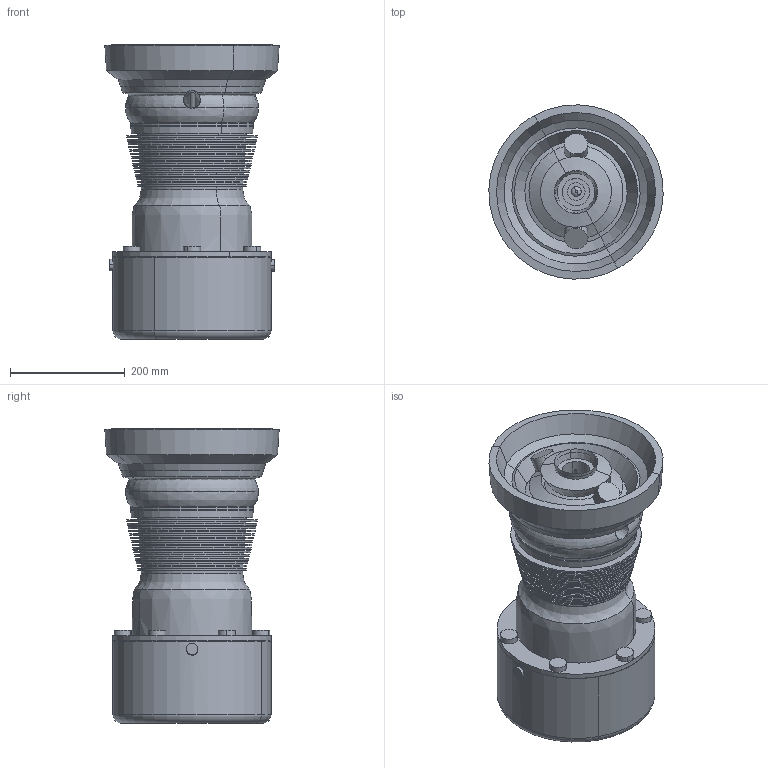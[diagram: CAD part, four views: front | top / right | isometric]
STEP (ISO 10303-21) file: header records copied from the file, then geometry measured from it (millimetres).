
FILE_DESCRIPTION(('CATIA V5 STEP Exchange'),'2;1');
FILE_NAME('C:\Documents and Settings\ABHIJEET\Desktop\IC ENGINE.stp','2011-10-23T07:08:08+00:00',('none'),('none'),'CATIA Version 5 Release 19 GA (IN-10)','CATIA V5 STEP AP203','none');
FILE_SCHEMA(('CONFIG_CONTROL_DESIGN'));
Length unit declared in the file: millimetre
Products named in the file (3): icengine; Piston rod assembly; Piston assembly
Assembly tree (20 placements, depth 3):
  icengine
    #56
    #7313  x2
    #7602
    #8245
    #9229
    Piston rod assembly
      #10127
      #11487
      #12125  x2
    Piston assembly
      #12334
      #14268
    #14465  x6
Bounding box: 304.08 x 304.08 x 513.26 mm (x, y, z)
Volume: 14074234.5 mm3; surface area: 1495168.9 mm2
Topology: 18 solids, 20 shells, 515 faces, 1152 edges, 739 vertices
Faces by surface type: cylinder 224, plane 157, cone 96, revolution 30, bspline 4, torus 2, extrusion 2
Entity records: 14655 total; most frequent: CARTESIAN_POINT 4906, ORIENTED_EDGE 2096, DIRECTION 1493, EDGE_CURVE 1048, AXIS2_PLACEMENT_3D 807, VERTEX_POINT 678, EDGE_LOOP 568, CIRCLE 532
